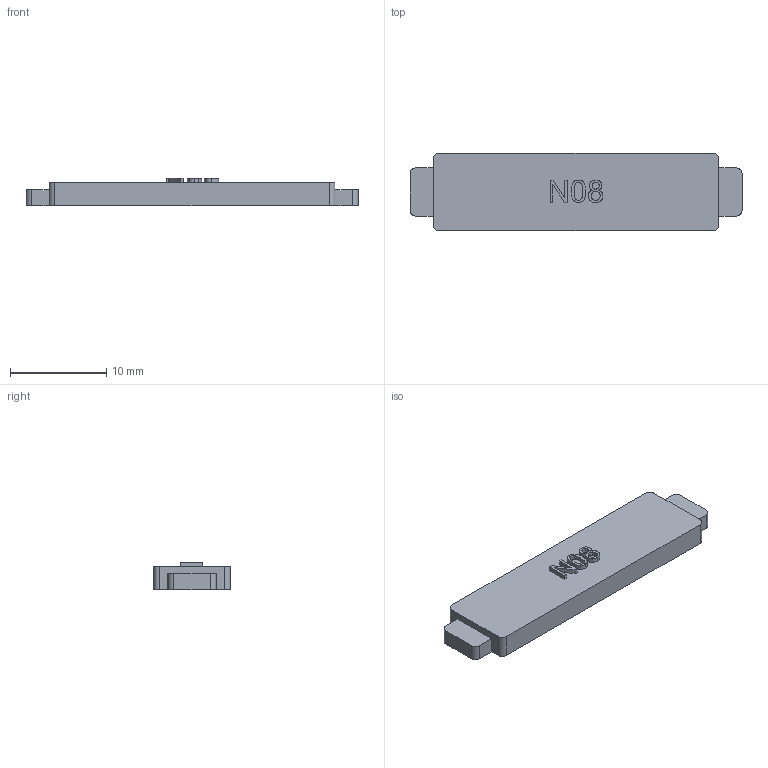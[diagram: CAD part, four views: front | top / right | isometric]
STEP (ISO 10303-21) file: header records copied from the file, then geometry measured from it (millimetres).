
FILE_DESCRIPTION(('Open CASCADE Model'),'2;1');
FILE_NAME('Open CASCADE Shape Model','1970-01-01T00:00:00',('Author'),( 'Open CASCADE'),'Open CASCADE STEP processor 7.8','Open CASCADE 7.8' ,'Unknown');
FILE_SCHEMA(('AUTOMOTIVE_DESIGN { 1 0 10303 214 1 1 1 1 }'));
Length unit declared in the file: millimetre
Products named in the file (2): Open CASCADE STEP translator 7.8 17; N08K neck keeper bar
Assembly tree (1 placements, depth 2):
  Open CASCADE STEP translator 7.8 17
    N08K neck keeper bar
Bounding box: 34.5 x 8 x 2.88 mm (x, y, z)
Volume: 611.7 mm3; surface area: 732.6 mm2
Topology: 1 solids, 1 shells, 91 faces, 249 edges, 166 vertices
Faces by surface type: extrusion 53, plane 30, cylinder 8
Entity records: 7183 total; most frequent: CARTESIAN_POINT 2682, DIRECTION 595, ORIENTED_EDGE 498, PCURVE 498, DEFINITIONAL_REPRESENTATION 498, VECTOR 471, LINE 418, B_SPLINE_CURVE_WITH_KNOTS 350
